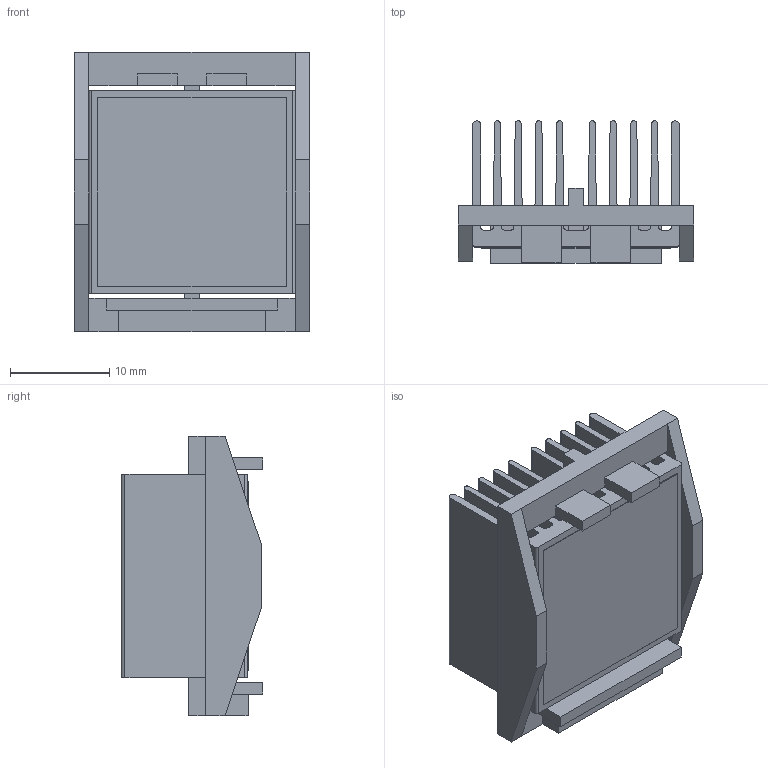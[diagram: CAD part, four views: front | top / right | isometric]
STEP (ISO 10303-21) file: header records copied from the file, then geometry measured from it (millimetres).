
FILE_DESCRIPTION (( 'STEP AP214' ), '1' );
FILE_NAME ('INL21001-13-1.7BU.STEP', '2023-02-21T16:17:22', ( '' ), ( '' ), 'SwSTEP 2.0', 'SolidWorks 2020', '' );
FILE_SCHEMA (( 'AUTOMOTIVE_DESIGN' ));
Length unit declared in the file: millimetre
Products named in the file (1): INL21001-13-1.7BU
Bounding box: 23.7 x 14.3 x 28.1 mm (x, y, z)
Volume: 3314.5 mm3; surface area: 7741.3 mm2
Topology: 3 solids, 3 shells, 116 faces, 332 edges, 220 vertices
Faces by surface type: plane 86, cylinder 30
Entity records: 5096 total; most frequent: CARTESIAN_POINT 669, ORIENTED_EDGE 664, DIRECTION 626, EDGE_CURVE 332, VECTOR 272, LINE 272, VERTEX_POINT 220, AXIS2_PLACEMENT_3D 177
